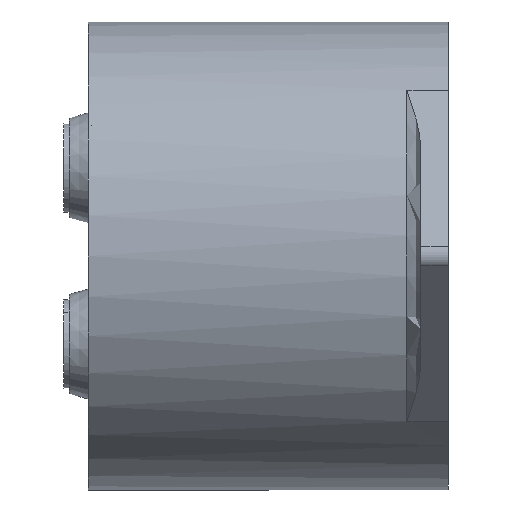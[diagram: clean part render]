
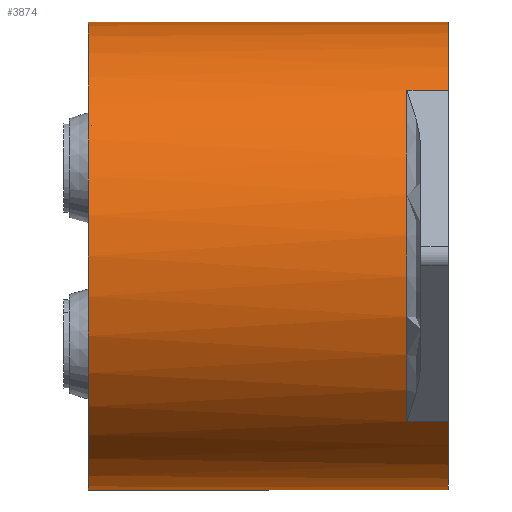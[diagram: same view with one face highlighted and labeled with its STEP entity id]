
A CAD part, left-side view. The second image highlights one B-rep face of the part: STEP entity #3874.
In plain terms, the highlighted cylindrical face has radius 42.25 mm (diameter 84.5 mm), a partial arc.
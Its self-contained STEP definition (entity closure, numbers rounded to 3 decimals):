
#35 = ORIENTED_EDGE ( 'NONE', *, *, #1985, .T. ) ;
#119 = AXIS2_PLACEMENT_3D ( 'NONE', #6130, #6255, #2879 ) ;
#146 = DIRECTION ( 'NONE',  ( 0., 0., -1. ) ) ;
#175 = EDGE_CURVE ( 'NONE', #6520, #5461, #4392, .T. ) ;
#237 = ORIENTED_EDGE ( 'NONE', *, *, #3528, .F. ) ;
#241 = DIRECTION ( 'NONE',  ( 0., 0., -1. ) ) ;
#543 = ORIENTED_EDGE ( 'NONE', *, *, #966, .F. ) ;
#638 = EDGE_CURVE ( 'NONE', #742, #5461, #5457, .T. ) ;
#674 = VECTOR ( 'NONE', #6142, 1000. ) ;
#742 = VERTEX_POINT ( 'NONE', #1964 ) ;
#839 = DIRECTION ( 'NONE',  ( 0., -1., 0. ) ) ;
#966 = EDGE_CURVE ( 'NONE', #6776, #6520, #3712, .T. ) ;
#992 = CARTESIAN_POINT ( 'NONE',  ( -29.857, 5., -29.894 ) ) ;
#1111 = CARTESIAN_POINT ( 'NONE',  ( 0., 65., -42.25 ) ) ;
#1283 = AXIS2_PLACEMENT_3D ( 'NONE', #6510, #3364, #241 ) ;
#1328 = CARTESIAN_POINT ( 'NONE',  ( 0., 0., 42.25 ) ) ;
#1348 = VERTEX_POINT ( 'NONE', #1111 ) ;
#1498 = DIRECTION ( 'NONE',  ( 0., -1., 0. ) ) ;
#1508 = DIRECTION ( 'NONE',  ( 0., -1., 0. ) ) ;
#1568 = VERTEX_POINT ( 'NONE', #3831 ) ;
#1867 = CARTESIAN_POINT ( 'NONE',  ( 0., 7.5, 0. ) ) ;
#1891 = EDGE_CURVE ( 'NONE', #2515, #742, #3298, .T. ) ;
#1964 = CARTESIAN_POINT ( 'NONE',  ( -29.857, 7.5, 29.894 ) ) ;
#1985 = EDGE_CURVE ( 'NONE', #1348, #5739, #4622, .T. ) ;
#2083 = VECTOR ( 'NONE', #1508, 1000. ) ;
#2115 = CYLINDRICAL_SURFACE ( 'NONE', #4942, 42.25 ) ;
#2248 = CARTESIAN_POINT ( 'NONE',  ( -29.857, 7.5, -29.894 ) ) ;
#2251 = CIRCLE ( 'NONE', #1283, 42.25 ) ;
#2515 = VERTEX_POINT ( 'NONE', #2248 ) ;
#2521 = AXIS2_PLACEMENT_3D ( 'NONE', #1867, #6169, #5582 ) ;
#2828 = ORIENTED_EDGE ( 'NONE', *, *, #6537, .F. ) ;
#2879 = DIRECTION ( 'NONE',  ( 0., 0., -1. ) ) ;
#3020 = CIRCLE ( 'NONE', #119, 42.25 ) ;
#3142 = VECTOR ( 'NONE', #839, 1000. ) ;
#3298 = CIRCLE ( 'NONE', #2521, 42.25 ) ;
#3364 = DIRECTION ( 'NONE',  ( 0., -1., 0. ) ) ;
#3398 = DIRECTION ( 'NONE',  ( 0., -1., 0. ) ) ;
#3402 = CARTESIAN_POINT ( 'NONE',  ( 0., 65., 42.25 ) ) ;
#3436 = ORIENTED_EDGE ( 'NONE', *, *, #175, .F. ) ;
#3528 = EDGE_CURVE ( 'NONE', #1568, #5739, #3020, .T. ) ;
#3645 = CARTESIAN_POINT ( 'NONE',  ( -29.857, 0., 29.894 ) ) ;
#3712 = LINE ( 'NONE', #1328, #3804 ) ;
#3724 = LINE ( 'NONE', #992, #2083 ) ;
#3804 = VECTOR ( 'NONE', #3398, 1000. ) ;
#3831 = CARTESIAN_POINT ( 'NONE',  ( -29.857, 0., -29.894 ) ) ;
#3874 = ADVANCED_FACE ( 'NONE', ( #5422 ), #2115, .T. ) ;
#4135 = CARTESIAN_POINT ( 'NONE',  ( 0., 0., -42.25 ) ) ;
#4164 = AXIS2_PLACEMENT_3D ( 'NONE', #5919, #4290, #146 ) ;
#4290 = DIRECTION ( 'NONE',  ( 0., -1., 0. ) ) ;
#4392 = CIRCLE ( 'NONE', #4164, 42.25 ) ;
#4622 = LINE ( 'NONE', #5598, #674 ) ;
#4942 = AXIS2_PLACEMENT_3D ( 'NONE', #6177, #1498, #5630 ) ;
#5422 = FACE_OUTER_BOUND ( 'NONE', #6282, .T. ) ;
#5457 = LINE ( 'NONE', #5540, #3142 ) ;
#5461 = VERTEX_POINT ( 'NONE', #3645 ) ;
#5528 = ORIENTED_EDGE ( 'NONE', *, *, #1891, .T. ) ;
#5540 = CARTESIAN_POINT ( 'NONE',  ( -29.857, 5., 29.894 ) ) ;
#5582 = DIRECTION ( 'NONE',  ( 0., 0., -1. ) ) ;
#5598 = CARTESIAN_POINT ( 'NONE',  ( 0., 0., -42.25 ) ) ;
#5630 = DIRECTION ( 'NONE',  ( 0., 0., -1. ) ) ;
#5739 = VERTEX_POINT ( 'NONE', #4135 ) ;
#5919 = CARTESIAN_POINT ( 'NONE',  ( 0., 0., 0. ) ) ;
#5982 = ORIENTED_EDGE ( 'NONE', *, *, #638, .T. ) ;
#6130 = CARTESIAN_POINT ( 'NONE',  ( 0., 0., 0. ) ) ;
#6142 = DIRECTION ( 'NONE',  ( 0., -1., 0. ) ) ;
#6169 = DIRECTION ( 'NONE',  ( 0., 1., 0. ) ) ;
#6177 = CARTESIAN_POINT ( 'NONE',  ( 0., 0., 0. ) ) ;
#6189 = CARTESIAN_POINT ( 'NONE',  ( 0., 0., 42.25 ) ) ;
#6255 = DIRECTION ( 'NONE',  ( 0., -1., 0. ) ) ;
#6265 = EDGE_CURVE ( 'NONE', #6776, #1348, #2251, .T. ) ;
#6282 = EDGE_LOOP ( 'NONE', ( #543, #6306, #35, #237, #2828, #5528, #5982, #3436 ) ) ;
#6306 = ORIENTED_EDGE ( 'NONE', *, *, #6265, .T. ) ;
#6510 = CARTESIAN_POINT ( 'NONE',  ( 0., 65., 0. ) ) ;
#6520 = VERTEX_POINT ( 'NONE', #6189 ) ;
#6537 = EDGE_CURVE ( 'NONE', #2515, #1568, #3724, .T. ) ;
#6776 = VERTEX_POINT ( 'NONE', #3402 ) ;
